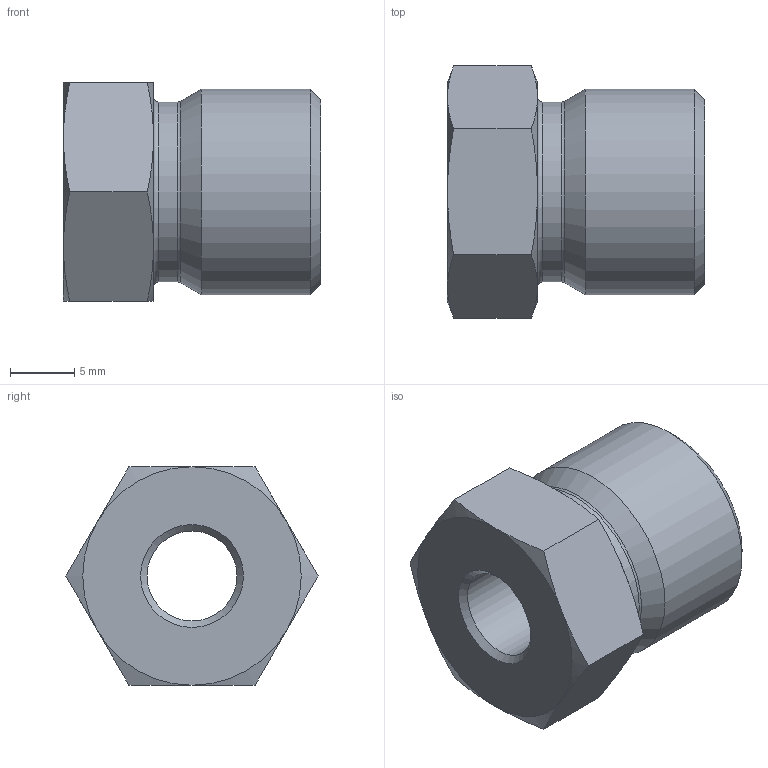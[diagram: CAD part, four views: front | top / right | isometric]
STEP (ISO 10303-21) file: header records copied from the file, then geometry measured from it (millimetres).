
FILE_DESCRIPTION(/* description */ ('Druckschraube'),/* implementation_level */ '2;1');
FILE_NAME(/* name */ 'FIT.SCR.M16.stp',/* time_stamp */ '2026-07-05T21:36:03+02:00',/* author */ ('janos'),/* organization */ (''),/* preprocessor_version */ 'ST-DEVELOPER v19.2',/* originating_system */ 'Autodesk Inventor 2024',/* authorisation */ '');
FILE_SCHEMA (('AUTOMOTIVE_DESIGN { 1 0 10303 214 3 1 1 }'));
Length unit declared in the file: millimetre
Products named in the file (1): 16.1-4 
Bounding box: 20 x 19.63 x 17 mm (x, y, z)
Volume: 3121.9 mm3; surface area: 1964.5 mm2
Topology: 1 solids, 1 shells, 32 faces, 69 edges, 40 vertices
Faces by surface type: cone 17, plane 9, cylinder 4, torus 2
Full cylindrical faces by diameter (mm): 7 x1, 9.5 x1, 14 x1, 16 x1
Entity records: 882 total; most frequent: CARTESIAN_POINT 190, DIRECTION 141, ORIENTED_EDGE 138, EDGE_CURVE 69, AXIS2_PLACEMENT_3D 63, VERTEX_POINT 40, EDGE_LOOP 35, FACE_OUTER_BOUND 32
